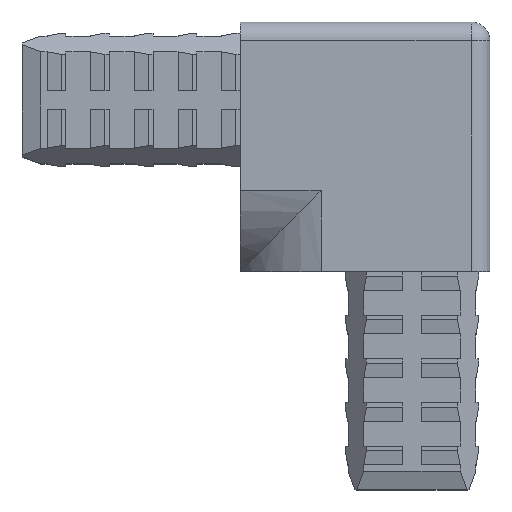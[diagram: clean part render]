
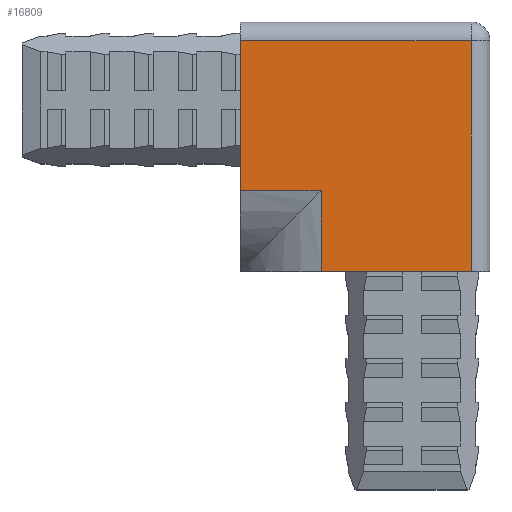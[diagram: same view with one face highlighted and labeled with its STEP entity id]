
A CAD part, top view. The second image highlights one B-rep face of the part: STEP entity #16809.
In plain terms, the highlighted planar face has unit normal (0, 0, 1).
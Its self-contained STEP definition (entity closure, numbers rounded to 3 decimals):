
#175 = VECTOR ( 'NONE', #10605, 1000. ) ;
#792 = LINE ( 'NONE', #16046, #175 ) ;
#815 = ORIENTED_EDGE ( 'NONE', *, *, #11911, .T. ) ;
#1273 = LINE ( 'NONE', #13490, #4380 ) ;
#1289 = LINE ( 'NONE', #12331, #10389 ) ;
#1447 = FACE_OUTER_BOUND ( 'NONE', #6309, .T. ) ;
#1487 = LINE ( 'NONE', #14967, #2189 ) ;
#1556 = VERTEX_POINT ( 'NONE', #7894 ) ;
#1557 = LINE ( 'NONE', #12719, #2700 ) ;
#2044 = DIRECTION ( 'NONE',  ( 0., -1., 0. ) ) ;
#2189 = VECTOR ( 'NONE', #16485, 1000. ) ;
#2234 = EDGE_CURVE ( 'NONE', #7111, #16589, #14274, .T. ) ;
#2700 = VECTOR ( 'NONE', #5483, 1000. ) ;
#3870 = CARTESIAN_POINT ( 'NONE',  ( -40., 12.938, 25. ) ) ;
#4103 = ORIENTED_EDGE ( 'NONE', *, *, #2234, .T. ) ;
#4217 = CARTESIAN_POINT ( 'NONE',  ( 0., 0., 25. ) ) ;
#4380 = VECTOR ( 'NONE', #12162, 1000. ) ;
#4549 = ORIENTED_EDGE ( 'NONE', *, *, #15109, .T. ) ;
#4854 = ORIENTED_EDGE ( 'NONE', *, *, #9766, .T. ) ;
#5326 = CARTESIAN_POINT ( 'NONE',  ( -40., 37., 25. ) ) ;
#5483 = DIRECTION ( 'NONE',  ( -1., 0., 0. ) ) ;
#6064 = EDGE_CURVE ( 'NONE', #11712, #16589, #1557, .T. ) ;
#6309 = EDGE_LOOP ( 'NONE', ( #4103, #9998, #815, #17465, #4854, #4549 ) ) ;
#7111 = VERTEX_POINT ( 'NONE', #5326 ) ;
#7145 = DIRECTION ( 'NONE',  ( 1., 0., 0. ) ) ;
#7279 = CARTESIAN_POINT ( 'NONE',  ( -27.062, 0., 25. ) ) ;
#7894 = CARTESIAN_POINT ( 'NONE',  ( -3., 0., 25. ) ) ;
#8911 = CARTESIAN_POINT ( 'NONE',  ( -40., 0., 25. ) ) ;
#9619 = VECTOR ( 'NONE', #2044, 1000. ) ;
#9665 = EDGE_CURVE ( 'NONE', #14940, #1556, #792, .T. ) ;
#9666 = DIRECTION ( 'NONE',  ( 0., -1., 0. ) ) ;
#9766 = EDGE_CURVE ( 'NONE', #1556, #13734, #1487, .T. ) ;
#9998 = ORIENTED_EDGE ( 'NONE', *, *, #6064, .F. ) ;
#10389 = VECTOR ( 'NONE', #9666, 1000. ) ;
#10605 = DIRECTION ( 'NONE',  ( 1., 0., 0. ) ) ;
#10826 = DIRECTION ( 'NONE',  ( 0., 0., 1. ) ) ;
#11712 = VERTEX_POINT ( 'NONE', #17257 ) ;
#11911 = EDGE_CURVE ( 'NONE', #11712, #14940, #1289, .T. ) ;
#12162 = DIRECTION ( 'NONE',  ( -1., 0., 0. ) ) ;
#12248 = PLANE ( 'NONE',  #13832 ) ;
#12331 = CARTESIAN_POINT ( 'NONE',  ( -27.062, 38.72, 25. ) ) ;
#12719 = CARTESIAN_POINT ( 'NONE',  ( -1.28, 12.938, 25. ) ) ;
#13490 = CARTESIAN_POINT ( 'NONE',  ( -40., 37., 25. ) ) ;
#13734 = VERTEX_POINT ( 'NONE', #14549 ) ;
#13832 = AXIS2_PLACEMENT_3D ( 'NONE', #4217, #10826, #7145 ) ;
#14274 = LINE ( 'NONE', #8911, #9619 ) ;
#14549 = CARTESIAN_POINT ( 'NONE',  ( -3., 37., 25. ) ) ;
#14940 = VERTEX_POINT ( 'NONE', #7279 ) ;
#14967 = CARTESIAN_POINT ( 'NONE',  ( -3., 40., 25. ) ) ;
#15109 = EDGE_CURVE ( 'NONE', #13734, #7111, #1273, .T. ) ;
#16046 = CARTESIAN_POINT ( 'NONE',  ( 0., 0., 25. ) ) ;
#16485 = DIRECTION ( 'NONE',  ( 0., 1., 0. ) ) ;
#16589 = VERTEX_POINT ( 'NONE', #3870 ) ;
#16809 = ADVANCED_FACE ( 'NONE', ( #1447 ), #12248, .T. ) ;
#17257 = CARTESIAN_POINT ( 'NONE',  ( -27.062, 12.938, 25. ) ) ;
#17465 = ORIENTED_EDGE ( 'NONE', *, *, #9665, .T. ) ;
